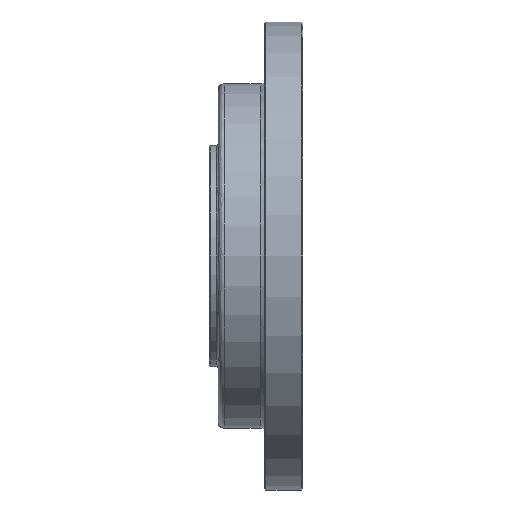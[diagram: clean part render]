
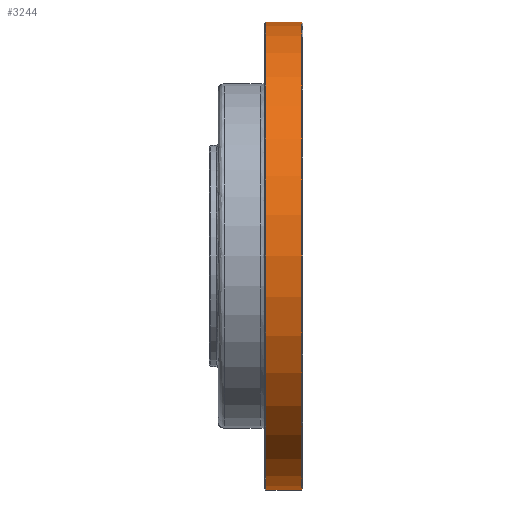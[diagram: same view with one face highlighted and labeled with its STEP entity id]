
A CAD part, front view. The second image highlights one B-rep face of the part: STEP entity #3244.
In plain terms, the highlighted cylindrical face has radius 55 mm (diameter 110 mm), a partial arc.
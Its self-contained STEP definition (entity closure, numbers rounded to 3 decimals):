
#985 = ORIENTED_EDGE ( 'NONE', *, *, #11642, .T. ) ;
#1475 = CARTESIAN_POINT ( 'NONE',  ( 21.7, 0., 55. ) ) ;
#1545 = EDGE_LOOP ( 'NONE', ( #2707, #9968, #985, #5370 ) ) ;
#1582 = CARTESIAN_POINT ( 'NONE',  ( 13.3, 0., 55. ) ) ;
#2205 = CIRCLE ( 'NONE', #10589, 55. ) ;
#2373 = VECTOR ( 'NONE', #11187, 1000. ) ;
#2458 = VERTEX_POINT ( 'NONE', #1475 ) ;
#2707 = ORIENTED_EDGE ( 'NONE', *, *, #7996, .F. ) ;
#2765 = VERTEX_POINT ( 'NONE', #9841 ) ;
#3244 = ADVANCED_FACE ( 'NONE', ( #4593 ), #11358, .T. ) ;
#3743 = CIRCLE ( 'NONE', #7987, 55. ) ;
#4045 = LINE ( 'NONE', #4818, #2373 ) ;
#4593 = FACE_OUTER_BOUND ( 'NONE', #1545, .T. ) ;
#4602 = VECTOR ( 'NONE', #8757, 1000. ) ;
#4818 = CARTESIAN_POINT ( 'NONE',  ( 13., 0., -55. ) ) ;
#5312 = EDGE_CURVE ( 'NONE', #2765, #8228, #2205, .T. ) ;
#5370 = ORIENTED_EDGE ( 'NONE', *, *, #5312, .F. ) ;
#5653 = LINE ( 'NONE', #6035, #4602 ) ;
#5881 = DIRECTION ( 'NONE',  ( -1., 0., 0. ) ) ;
#6031 = CARTESIAN_POINT ( 'NONE',  ( 13.3, 0., 0. ) ) ;
#6035 = CARTESIAN_POINT ( 'NONE',  ( 13., 0., 55. ) ) ;
#6439 = AXIS2_PLACEMENT_3D ( 'NONE', #11444, #11543, #11478 ) ;
#6985 = CARTESIAN_POINT ( 'NONE',  ( 21.7, 0., 0. ) ) ;
#7874 = DIRECTION ( 'NONE',  ( -1., 0., 0. ) ) ;
#7987 = AXIS2_PLACEMENT_3D ( 'NONE', #6985, #5881, #10936 ) ;
#7996 = EDGE_CURVE ( 'NONE', #9134, #2765, #4045, .T. ) ;
#8228 = VERTEX_POINT ( 'NONE', #1582 ) ;
#8644 = DIRECTION ( 'NONE',  ( 0., 0., -1. ) ) ;
#8757 = DIRECTION ( 'NONE',  ( -1., 0., 0. ) ) ;
#8764 = CARTESIAN_POINT ( 'NONE',  ( 21.7, 0., -55. ) ) ;
#9134 = VERTEX_POINT ( 'NONE', #8764 ) ;
#9841 = CARTESIAN_POINT ( 'NONE',  ( 13.3, 0., -55. ) ) ;
#9968 = ORIENTED_EDGE ( 'NONE', *, *, #10726, .T. ) ;
#10589 = AXIS2_PLACEMENT_3D ( 'NONE', #6031, #7874, #8644 ) ;
#10726 = EDGE_CURVE ( 'NONE', #9134, #2458, #3743, .T. ) ;
#10936 = DIRECTION ( 'NONE',  ( 0., 0., 1. ) ) ;
#11187 = DIRECTION ( 'NONE',  ( -1., 0., 0. ) ) ;
#11358 = CYLINDRICAL_SURFACE ( 'NONE', #6439, 55. ) ;
#11444 = CARTESIAN_POINT ( 'NONE',  ( 13., 0., 0. ) ) ;
#11478 = DIRECTION ( 'NONE',  ( 0., 0., 1. ) ) ;
#11543 = DIRECTION ( 'NONE',  ( -1., 0., 0. ) ) ;
#11642 = EDGE_CURVE ( 'NONE', #2458, #8228, #5653, .T. ) ;
